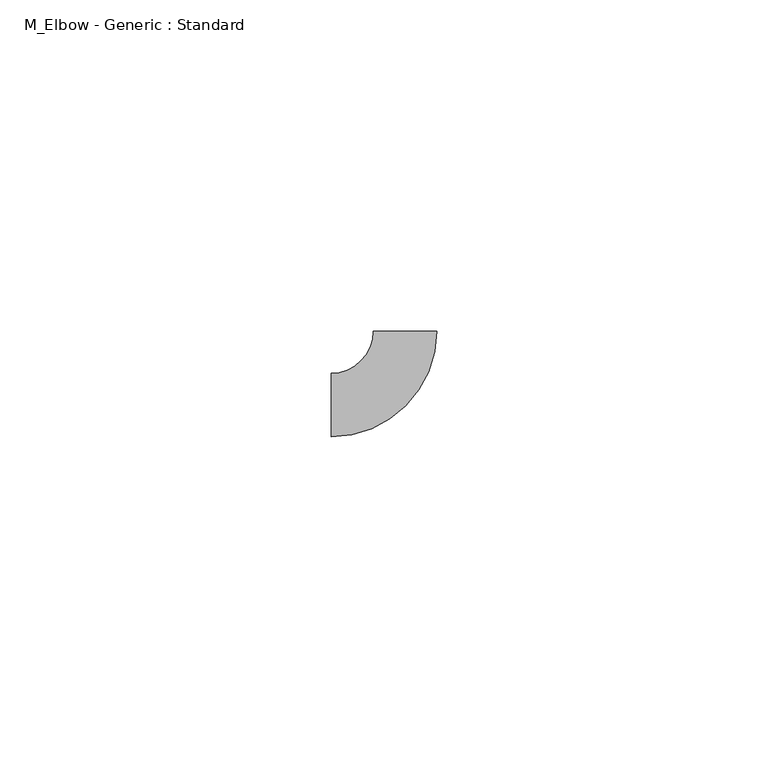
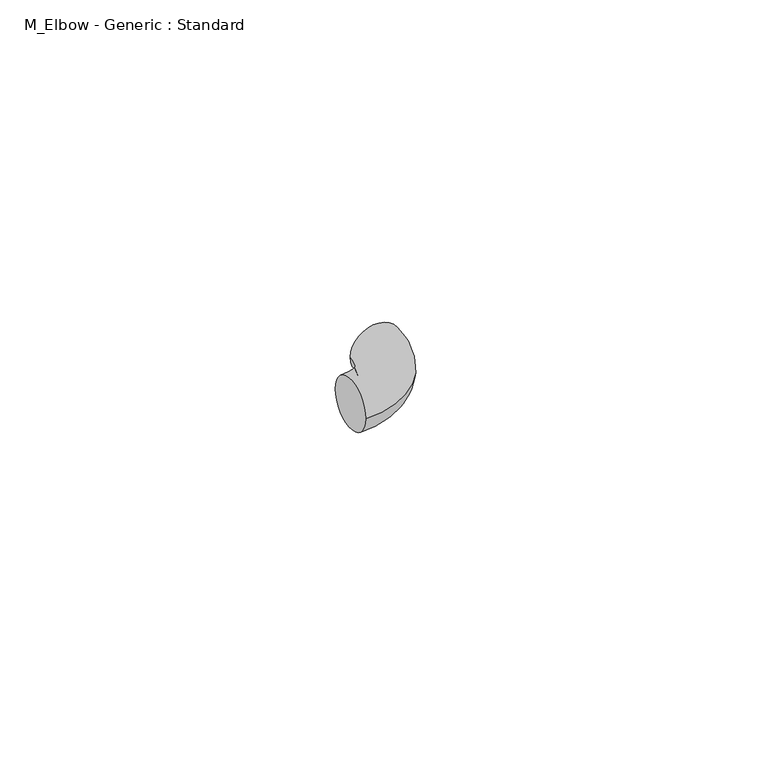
"""IFC4 building model written with IfcOpenShell, lengths in millimetres: pipe fitting geometry, M_Elbow - Generic : Standard."""

from ifc_helpers import new_model, si_unit, point, frame, origin, place, context, project, spatial, circle_curve, ellipse_curve, trimmed, source, transform, mapped, element, save
from ifc_brep_helpers import plane_surface, revolved_surface, advanced_brep


def m_elbow_generic_standard_2a704253(model_context):
    return source(origin(), model_context, "Body", "AdvancedBrep", [
        advanced_brep(
        [(-11.1375, -4.7875, 0.0), (-11.1375, 4.7875, 0.0), (4.7875, 11.1375, 0.0), (-4.7875, 11.1375, 0.0)],
        [
            (0, 1, circle_curve(frame((-11.1375, 0.0, 0.0), z_axis=(-1.0, 0.0, 0.0), x_axis=(0.0, 1.0, 0.0)), 4.7875)),
            (1, 0, circle_curve(frame((-11.1375, 0.0, 0.0), z_axis=(-1.0, 0.0, 0.0), x_axis=(0.0, 1.0, 0.0)), 4.7875)),
            (2, 3, circle_curve(frame((0.0, 11.1375, 0.0), z_axis=(0.0, 1.0, 0.0), x_axis=(-1.0, 0.0, 0.0)), 4.7875)),
            (3, 2, circle_curve(frame((0.0, 11.1375, 0.0), z_axis=(0.0, 1.0, 0.0), x_axis=(-1.0, 0.0, 0.0)), 4.7875)),
            (3, 1, circle_curve(frame((-11.1375, 11.1375, 0.0), z_axis=(0.0, 0.0, -1.0), x_axis=(0.0, -1.0, 0.0)), 6.35)),
            (0, 2, circle_curve(frame((-11.1375, 11.1375, 0.0), z_axis=(0.0, 0.0, 1.0), x_axis=(0.0, -1.0, 0.0)), 15.925)),
        ],
        [
            plane_surface(frame((-11.1375, 0.0, 0.0), z_axis=(-1.0, 0.0, 0.0), x_axis=(0.0, 0.0, 1.0))),
            plane_surface(frame((0.0, 11.1375, 0.0), z_axis=(0.0, 1.0, 0.0), x_axis=(0.0, 0.0, 1.0))),
            revolved_surface(trimmed(ellipse_curve(frame((-11.1375, 0.0, 0.0), z_axis=(-1.0, 0.0, 0.0), x_axis=(0.0, 1.0, 0.0)), 4.7875, 4.7875), [point((-11.1375, -4.7875, 0.0))], [point((-11.1375, 4.7875, 0.0))], True, "CARTESIAN"), (-11.1375, 11.1375, 0.0), (0.0, 0.0, 1.0)),
            revolved_surface(trimmed(ellipse_curve(frame((-11.1375, 0.0, 0.0), z_axis=(-1.0, 0.0, 0.0), x_axis=(0.0, 1.0, 0.0)), 4.7875, 4.7875), [point((-11.1375, 4.7875, 0.0))], [point((-11.1375, -4.7875, 0.0))], True, "CARTESIAN"), (-11.1375, 11.1375, 0.0), (0.0, 0.0, 1.0)),
        ],
        [
            (0, [[1, 2]]),
            (1, [[3, 4]]),
            (2, [[5, -1, 6, -4]]),
            (3, [[-6, -2, -5, -3]]),
        ],
    ),
    ])


if __name__ == "__main__":
    model = new_model("IFC4")
    model_context = context("Model", 3, world=origin())
    ifc_project = project(units=[si_unit("LENGTHUNIT", "METRE", prefix="MILLI")], contexts=[model_context])
    site = spatial("IfcSite", under=ifc_project)
    building = spatial("IfcBuilding", under=site)
    placement = place(None, origin())
    m_elbow_generic_standard_shape = m_elbow_generic_standard_2a704253(model_context)
    element("IfcPipeFitting", 1, ObjectType="M_Elbow - Generic : Standard", at=placement, inside=building, context=model_context, shape_type="MappedRepresentation", body=[
        mapped(m_elbow_generic_standard_shape, transform((0.0, 0.0, 0.0), x_axis=(1.0, 0.0, 0.0), y_axis=(0.0, 1.0, 0.0), z_axis=(0.0, 0.0, 1.0))),
    ])
    save(model, "model.ifc")
